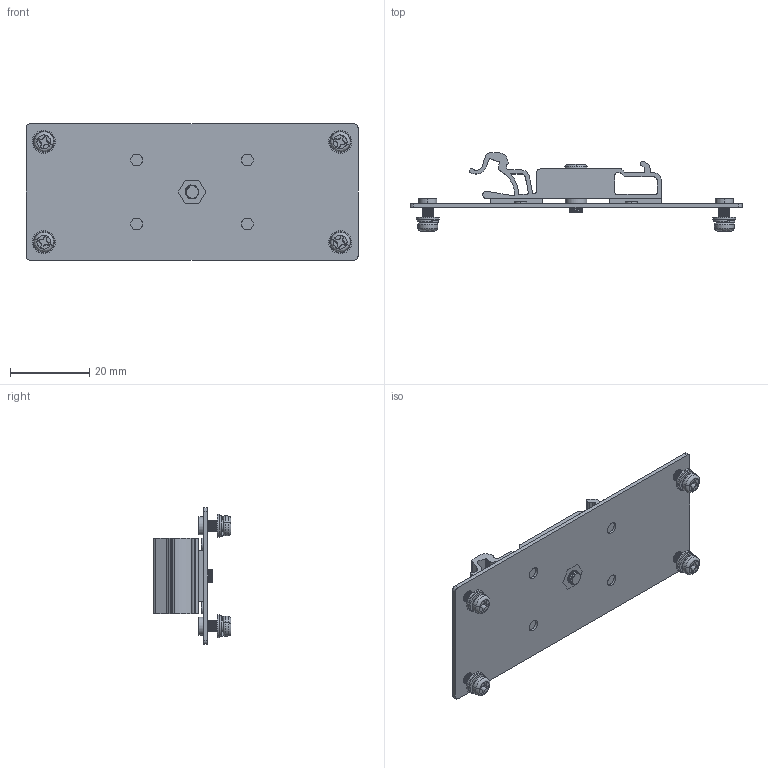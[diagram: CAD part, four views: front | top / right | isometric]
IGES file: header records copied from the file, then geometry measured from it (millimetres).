
Start section: SolidWorks IGES file using analytic representation for surfaces
Global section: file name: C:\Users\davidcook\Desktop\Kent\ECL15-S ASM SPEC(DIN Rail clip).IGS; native system: SolidWorks 2013; preprocessor: SolidWorks 2013; author: davidcook; date: 121112.104500; units: inch
Bounding box: 84 x 19.7 x 34.5 mm (x, y, z)
Volume: 6708.4 mm3; surface area: 12715.8 mm2
Topology: 10 solids, 10 shells, 706 faces, 1970 edges, 1303 vertices
Faces by surface type: revolution 351, plane 261, bspline 94
